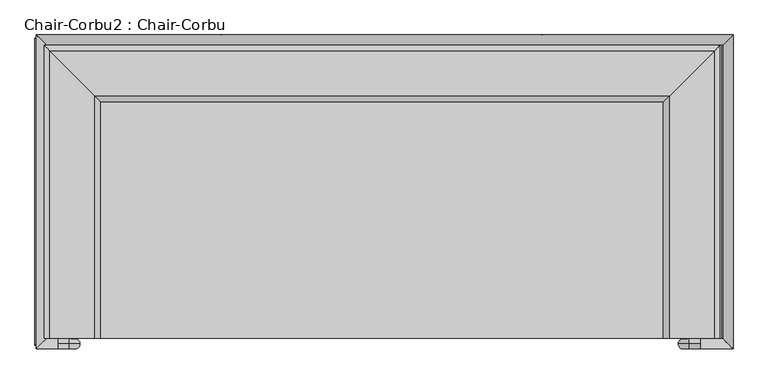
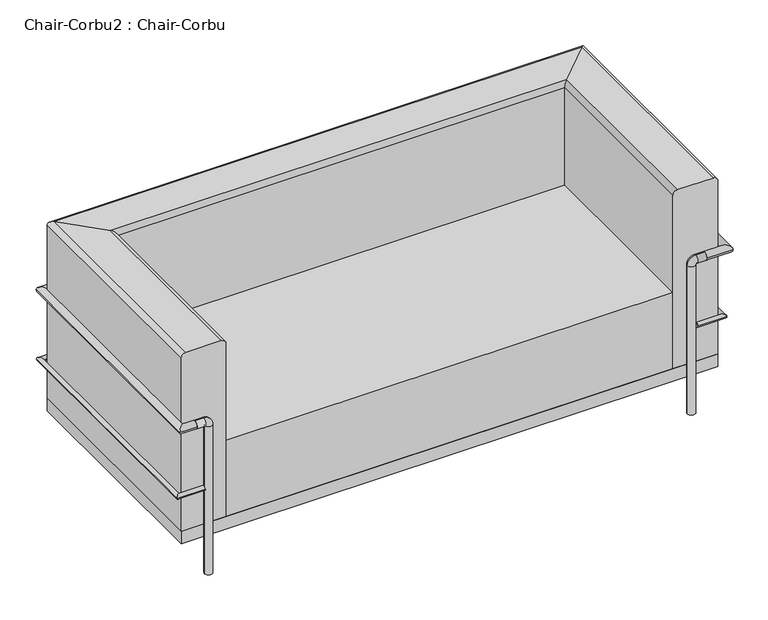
"""IFC4 building model written with IfcOpenShell, lengths in millimetres: furniture geometry, Chair-Corbu2 : Chair-Corbu."""

from ifc_helpers import new_model, si_unit, point, frame, frame_2d, origin, origin_with_axes, place, context, project, spatial, polyline, circle_curve, ellipse_curve, trimmed, segment, composite_curve, outline, extrude, source, transform, mapped, element, save
from ifc_brep_helpers import plane_surface, cylinder_surface, revolved_surface, advanced_brep


def chair_corbu2_chair_corbu_dae4c868(model_context):
    return source(origin(), model_context, "Body", "SolidModel", [
        advanced_brep(
        [(-188.6262295, 136.5770492, 139.7), (-61.6262295, 136.5770492, 139.7), (-61.6262295, 136.5770492, 660.4), (-74.3262295, 136.5770492, 673.1), (-175.9262295, 136.5770492, 673.1), (-188.6262295, 136.5770492, 660.4), (-188.6262295, 796.9770492, 139.7), (-61.6262295, 669.9770492, 139.7), (-61.6262295, 669.9770492, 660.4), (-74.3262295, 682.6770492, 673.1), (-175.9262295, 784.2770492, 673.1), (-188.6262295, 796.9770492, 660.4), (1335.3737705, 796.9770492, 139.7), (1208.3737705, 669.9770492, 139.7), (1208.3737705, 669.9770492, 660.4), (1221.0737705, 682.6770492, 673.1), (1322.6737705, 784.2770492, 673.1), (1335.3737705, 796.9770492, 660.4), (1335.3737705, 136.5770492, 139.7), (1335.3737705, 136.5770492, 660.4), (1322.6737705, 136.5770492, 673.1), (1221.0737705, 136.5770492, 673.1), (1208.3737705, 136.5770492, 660.4), (1208.3737705, 136.5770492, 139.7)],
        [
            (0, 1),
            (1, 2),
            (2, 3, circle_curve(frame((-74.3262295, 136.5770492, 660.4), z_axis=(0.0, -1.0, 0.0), x_axis=(-1.0, 0.0, 0.0)), 12.7)),
            (3, 4),
            (4, 5, circle_curve(frame((-175.9262295, 136.5770492, 660.4), z_axis=(0.0, -1.0, 0.0), x_axis=(-1.0, 0.0, 0.0)), 12.7)),
            (5, 0),
            (0, 6),
            (6, 7),
            (7, 1),
            (7, 8),
            (8, 2),
            (8, 9, ellipse_curve(frame((-74.3262295, 682.6770492, 660.4), z_axis=(-0.7071067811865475, -0.7071067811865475, 0.0), x_axis=(0.7071067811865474, -0.7071067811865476, 0.0)), 17.9605122, 12.7)),
            (9, 3),
            (9, 10),
            (10, 4),
            (10, 11, ellipse_curve(frame((-175.9262295, 784.2770492, 660.4), z_axis=(-0.7071067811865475, -0.7071067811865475, 0.0), x_axis=(0.7071067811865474, -0.7071067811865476, 0.0)), 17.9605122, 12.7)),
            (11, 5),
            (11, 6),
            (6, 12),
            (12, 13),
            (13, 7),
            (13, 14),
            (14, 8),
            (14, 15, ellipse_curve(frame((1221.0737705, 682.6770492, 660.4), z_axis=(-0.7071067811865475, 0.7071067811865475, 0.0), x_axis=(-0.7071067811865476, -0.7071067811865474, 0.0)), 17.9605122, 12.7)),
            (15, 9),
            (15, 16),
            (16, 10),
            (16, 17, ellipse_curve(frame((1322.6737705, 784.2770492, 660.4), z_axis=(-0.7071067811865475, 0.7071067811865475, 0.0), x_axis=(-0.7071067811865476, -0.7071067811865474, 0.0)), 17.9605122, 12.7)),
            (17, 11),
            (17, 12),
            (18, 19),
            (19, 20, circle_curve(frame((1322.6737705, 136.5770492, 660.4), z_axis=(0.0, -1.0, 0.0), x_axis=(1.0, 0.0, 0.0)), 12.7)),
            (20, 21),
            (21, 22, circle_curve(frame((1221.0737705, 136.5770492, 660.4), z_axis=(0.0, -1.0, 0.0), x_axis=(1.0, 0.0, 0.0)), 12.7)),
            (22, 23),
            (23, 18),
            (12, 18),
            (23, 13),
            (22, 14),
            (21, 15),
            (20, 16),
            (19, 17),
        ],
        [
            plane_surface(frame((-871.3619763, 136.5770492, 0.0), z_axis=(0.0, -1.0, 0.0), x_axis=(0.0, 0.0, 1.0))),
            plane_surface(frame((-188.6262295, 136.5770492, 139.7), z_axis=(0.0, 0.0, -1.0), x_axis=(0.0, 1.0, 0.0))),
            plane_surface(frame((-61.6262295, 136.5770492, 139.7), z_axis=(1.0, 0.0, 0.0), x_axis=(0.0, 1.0, 0.0))),
            cylinder_surface(frame((-74.3262295, 136.5770492, 660.4), z_axis=(0.0, -1.0, 0.0), x_axis=(-1.0, 0.0, 0.0)), 12.7),
            plane_surface(frame((-74.3262295, 136.5770492, 673.1), z_axis=(0.0, 0.0, 1.0), x_axis=(0.0, 1.0, 0.0))),
            cylinder_surface(frame((-175.9262295, 136.5770492, 660.4), z_axis=(0.0, -1.0, 0.0), x_axis=(-1.0, 0.0, 0.0)), 12.7),
            plane_surface(frame((-188.6262295, 136.5770492, 660.4), z_axis=(-1.0, 0.0, 0.0), x_axis=(0.0, 1.0, 0.0))),
            plane_surface(frame((-188.6262295, 796.9770492, 139.7), z_axis=(0.0, 0.0, -1.0), x_axis=(1.0, 0.0, 0.0))),
            plane_surface(frame((-61.6262295, 669.9770492, 139.7), z_axis=(0.0, -1.0, 0.0), x_axis=(1.0, 0.0, 0.0))),
            cylinder_surface(frame((-188.6262295, 682.6770492, 660.4), z_axis=(-1.0, 0.0, 0.0), x_axis=(0.0, 1.0, 0.0)), 12.7),
            plane_surface(frame((-74.3262295, 682.6770492, 673.1), z_axis=(0.0, 0.0, 1.0), x_axis=(1.0, 0.0, 0.0))),
            cylinder_surface(frame((-188.6262295, 784.2770492, 660.4), z_axis=(-1.0, 0.0, 0.0), x_axis=(0.0, 1.0, 0.0)), 12.7),
            plane_surface(frame((-188.6262295, 796.9770492, 660.4), z_axis=(0.0, 1.0, 0.0), x_axis=(1.0, 0.0, 0.0))),
            plane_surface(frame((652.6380237, 136.5770492, 0.0), z_axis=(0.0, -1.0, 0.0), x_axis=(0.0, 0.0, -1.0))),
            plane_surface(frame((1335.3737705, 796.9770492, 139.7), z_axis=(0.0, 0.0, -1.0), x_axis=(0.0, -1.0, 0.0))),
            plane_surface(frame((1208.3737705, 669.9770492, 139.7), z_axis=(-1.0, 0.0, 0.0), x_axis=(0.0, -1.0, 0.0))),
            cylinder_surface(frame((1221.0737705, 796.9770492, 660.4), z_axis=(0.0, 1.0, 0.0), x_axis=(1.0, 0.0, 0.0)), 12.7),
            plane_surface(frame((1221.0737705, 682.6770492, 673.1), z_axis=(0.0, 0.0, 1.0), x_axis=(0.0, -1.0, 0.0))),
            cylinder_surface(frame((1322.6737705, 796.9770492, 660.4), z_axis=(0.0, 1.0, 0.0), x_axis=(1.0, 0.0, 0.0)), 12.7),
            plane_surface(frame((1335.3737705, 796.9770492, 660.4), z_axis=(1.0, 0.0, 0.0), x_axis=(0.0, -1.0, 0.0))),
        ],
        [
            (0, [[1, 2, 3, 4, 5, 6]]),
            (1, [[-1, 7, 8, 9]]),
            (2, [[-2, -9, 10, 11]]),
            (3, [[-3, -11, 12, 13]]),
            (4, [[-4, -13, 14, 15]]),
            (5, [[-5, -15, 16, 17]]),
            (6, [[-6, -17, 18, -7]]),
            (7, [[-8, 19, 20, 21]]),
            (8, [[-10, -21, 22, 23]]),
            (9, [[-12, -23, 24, 25]]),
            (10, [[-14, -25, 26, 27]]),
            (11, [[-16, -27, 28, 29]]),
            (12, [[-18, -29, 30, -19]]),
            (13, [[31, 32, 33, 34, 35, 36]]),
            (14, [[-20, 37, -36, 38]]),
            (15, [[-22, -38, -35, 39]]),
            (16, [[-24, -39, -34, 40]]),
            (17, [[-26, -40, -33, 41]]),
            (18, [[-28, -41, -32, 42]]),
            (19, [[-30, -42, -31, -37]]),
        ],
    ),
        advanced_brep(
        [(1263.9362705, 123.8770492, 0.0), (1241.7112705, 123.8770492, 0.0), (1263.9362705, 123.8770492, 444.496873), (1241.7112705, 123.8770492, 444.496873), (1265.5237705, 123.8770492, 468.309373), (1265.5237705, 123.8770492, 446.084373), (1290.9237705, 123.8770492, 446.084373), (1290.9237705, 123.8770492, 468.309373)],
        [
            (0, 1, circle_curve(frame((1252.8237705, 123.8770492, 0.0), z_axis=(0.0, 0.0, -1.0), x_axis=(-1.0, 0.0, 0.0)), 11.1125)),
            (1, 0, circle_curve(frame((1252.8237705, 123.8770492, 0.0), z_axis=(0.0, 0.0, -1.0), x_axis=(-1.0, 0.0, 0.0)), 11.1125)),
            (0, 2),
            (2, 3, circle_curve(frame((1252.8237705, 123.8770492, 444.496873), z_axis=(0.0, 0.0, -1.0), x_axis=(-1.0, 0.0, 0.0)), 11.1125)),
            (3, 1),
            (3, 2, circle_curve(frame((1252.8237705, 123.8770492, 444.496873), z_axis=(0.0, 0.0, -1.0), x_axis=(-1.0, 0.0, 0.0)), 11.1125)),
            (4, 3, circle_curve(frame((1265.5237705, 123.8770492, 444.496873), z_axis=(0.0, -1.0, 0.0), x_axis=(-1.0, 0.0, 0.0)), 23.8125)),
            (2, 5, circle_curve(frame((1265.5237705, 123.8770492, 444.496873), z_axis=(0.0, 1.0, 0.0), x_axis=(-1.0, 0.0, 0.0)), 1.5875)),
            (5, 4, circle_curve(frame((1265.5237705, 123.8770492, 457.196873), z_axis=(-1.0, 0.0, 0.0), x_axis=(0.0, 0.0, 1.0)), 11.1125)),
            (4, 5, circle_curve(frame((1265.5237705, 123.8770492, 457.196873), z_axis=(-1.0, 0.0, 0.0), x_axis=(0.0, 0.0, 1.0)), 11.1125)),
            (6, 7, circle_curve(frame((1290.9237705, 123.8770492, 457.196873), z_axis=(1.0, 0.0, 0.0), x_axis=(0.0, 0.0, 1.0)), 11.1125)),
            (7, 6, circle_curve(frame((1290.9237705, 123.8770492, 457.196873), z_axis=(1.0, 0.0, 0.0), x_axis=(0.0, 0.0, 1.0)), 11.1125)),
            (5, 6),
            (7, 4),
        ],
        [
            plane_surface(frame((1252.8237705, 112.7645492, 0.0), z_axis=(0.0, 0.0, -1.0), x_axis=(1.0, 0.0, 0.0))),
            cylinder_surface(frame((1252.8237705, 123.8770492, 0.0), z_axis=(0.0, 0.0, -1.0), x_axis=(-1.0, 0.0, 0.0)), 11.1125),
            revolved_surface(trimmed(ellipse_curve(frame((1252.8237705, 123.8770492, 444.496873), z_axis=(0.0, 0.0, -1.0), x_axis=(-1.0, 0.0, 0.0)), 11.1125, 11.1125), [point((1263.9362705, 123.8770492, 444.496873))], [point((1241.7112705, 123.8770492, 444.496873))], True, "CARTESIAN"), (1265.5237705, 123.8770492, 444.496873), (0.0, 1.0, 0.0)),
            revolved_surface(trimmed(ellipse_curve(frame((1252.8237705, 123.8770492, 444.496873), z_axis=(0.0, 0.0, -1.0), x_axis=(-1.0, 0.0, 0.0)), 11.1125, 11.1125), [point((1241.7112705, 123.8770492, 444.496873))], [point((1263.9362705, 123.8770492, 444.496873))], True, "CARTESIAN"), (1265.5237705, 123.8770492, 444.496873), (0.0, 1.0, 0.0)),
            plane_surface(frame((1290.9237705, 123.8770492, 446.084373), z_axis=(1.0, 0.0, 0.0), x_axis=(0.0, 1.0, 0.0))),
            cylinder_surface(frame((1265.5237705, 123.8770492, 457.196873), z_axis=(-1.0, 0.0, 0.0), x_axis=(0.0, 0.0, 1.0)), 11.1125),
        ],
        [
            (0, [[1, 2]]),
            (1, [[-1, 3, 4, 5]]),
            (1, [[-2, -5, 6, -3]]),
            (2, [[7, -4, 8, 9]]),
            (3, [[-8, -6, -7, 10]]),
            (4, [[11, 12]]),
            (5, [[-9, 13, -12, 14]]),
            (5, [[-10, -14, -11, -13]]),
        ],
    ),
        advanced_brep(
        [(-107.6637109, 123.8770492, 0.0), (-129.8887109, 123.8770492, 0.0), (-107.6637109, 123.8770492, 444.496873), (-129.8887109, 123.8770492, 444.496873), (-131.4762109, 123.8770492, 446.084373), (-131.4762109, 123.8770492, 468.309373), (-156.8762109, 123.8770492, 468.309373), (-156.8762109, 123.8770492, 446.084373)],
        [
            (0, 1, circle_curve(frame((-118.7762109, 123.8770492, 0.0), z_axis=(0.0, 0.0, -1.0), x_axis=(-1.0, 0.0, 0.0)), 11.1125)),
            (1, 0, circle_curve(frame((-118.7762109, 123.8770492, 0.0), z_axis=(0.0, 0.0, -1.0), x_axis=(-1.0, 0.0, 0.0)), 11.1125)),
            (0, 2),
            (2, 3, circle_curve(frame((-118.7762109, 123.8770492, 444.496873), z_axis=(0.0, 0.0, -1.0), x_axis=(-1.0, 0.0, 0.0)), 11.1125)),
            (3, 1),
            (3, 2, circle_curve(frame((-118.7762109, 123.8770492, 444.496873), z_axis=(0.0, 0.0, -1.0), x_axis=(-1.0, 0.0, 0.0)), 11.1125)),
            (4, 3, circle_curve(frame((-131.4762109, 123.8770492, 444.496873), z_axis=(0.0, 1.0, 0.0), x_axis=(1.0, 0.0, 0.0)), 1.5875)),
            (2, 5, circle_curve(frame((-131.4762109, 123.8770492, 444.496873), z_axis=(0.0, -1.0, 0.0), x_axis=(1.0, 0.0, 0.0)), 23.8125)),
            (5, 4, circle_curve(frame((-131.4762109, 123.8770492, 457.196873), z_axis=(1.0, 0.0, 0.0), x_axis=(0.0, 0.0, -1.0)), 11.1125)),
            (4, 5, circle_curve(frame((-131.4762109, 123.8770492, 457.196873), z_axis=(1.0, 0.0, 0.0), x_axis=(0.0, 0.0, -1.0)), 11.1125)),
            (6, 7, circle_curve(frame((-156.8762109, 123.8770492, 457.196873), z_axis=(-1.0, 0.0, 0.0), x_axis=(0.0, 0.0, -1.0)), 11.1125)),
            (7, 6, circle_curve(frame((-156.8762109, 123.8770492, 457.196873), z_axis=(-1.0, 0.0, 0.0), x_axis=(0.0, 0.0, -1.0)), 11.1125)),
            (5, 6),
            (7, 4),
        ],
        [
            plane_surface(frame((-118.7762109, 112.7645492, 0.0), z_axis=(0.0, 0.0, -1.0), x_axis=(1.0, 0.0, 0.0))),
            cylinder_surface(frame((-118.7762109, 123.8770492, 0.0), z_axis=(0.0, 0.0, -1.0), x_axis=(-1.0, 0.0, 0.0)), 11.1125),
            revolved_surface(trimmed(ellipse_curve(frame((-118.7762109, 123.8770492, 444.496873), z_axis=(0.0, 0.0, -1.0), x_axis=(-1.0, 0.0, 0.0)), 11.1125, 11.1125), [point((-107.6637109, 123.8770492, 444.496873))], [point((-129.8887109, 123.8770492, 444.496873))], True, "CARTESIAN"), (-131.4762109, 123.8770492, 444.496873), (0.0, -1.0, 0.0)),
            revolved_surface(trimmed(ellipse_curve(frame((-118.7762109, 123.8770492, 444.496873), z_axis=(0.0, 0.0, -1.0), x_axis=(-1.0, 0.0, 0.0)), 11.1125, 11.1125), [point((-129.8887109, 123.8770492, 444.496873))], [point((-107.6637109, 123.8770492, 444.496873))], True, "CARTESIAN"), (-131.4762109, 123.8770492, 444.496873), (0.0, -1.0, 0.0)),
            plane_surface(frame((-156.8762109, 123.8770492, 446.084373), z_axis=(-1.0, 0.0, 0.0), x_axis=(0.0, -1.0, 0.0))),
            cylinder_surface(frame((-131.4762109, 123.8770492, 457.196873), z_axis=(1.0, 0.0, 0.0), x_axis=(0.0, 0.0, -1.0)), 11.1125),
        ],
        [
            (0, [[1, 2]]),
            (1, [[-1, 3, 4, 5]]),
            (1, [[-2, -5, 6, -3]]),
            (2, [[7, -4, 8, 9]]),
            (3, [[-8, -6, -7, 10]]),
            (4, [[11, 12]]),
            (5, [[-9, 13, -12, 14]]),
            (5, [[-10, -14, -11, -13]]),
        ],
    ),
        advanced_brep(
        [(-126.746678, 133.8111098, 255.1432273), (-126.746678, 121.1111098, 255.1432273), (-196.596678, 133.8111098, 255.1432273), (-209.296678, 121.1111098, 255.1432273), (-196.596678, 800.5611098, 255.1432273), (-209.296678, 813.2611098, 255.1432273), (1340.103322, 800.5611098, 255.1432273), (1352.803322, 813.2611098, 255.1432273), (1340.103322, 133.8111098, 255.1432273), (1352.803322, 121.1111098, 255.1432273), (1270.253322, 133.8111098, 255.1432273), (1270.253322, 121.1111098, 255.1432273)],
        [
            (0, 1, circle_curve(frame((-126.746678, 127.4611098, 255.1432273), z_axis=(1.0, 0.0, 0.0), x_axis=(0.0, -1.0, 0.0)), 6.35)),
            (1, 0, circle_curve(frame((-126.746678, 127.4611098, 255.1432273), z_axis=(1.0, 0.0, 0.0), x_axis=(0.0, -1.0, 0.0)), 6.35)),
            (0, 2),
            (2, 3, ellipse_curve(frame((-202.946678, 127.4611098, 255.1432273), z_axis=(0.7071067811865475, -0.7071067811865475, 0.0), x_axis=(0.7071067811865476, 0.7071067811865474, 0.0)), 8.9802561, 6.35)),
            (3, 1),
            (3, 2, ellipse_curve(frame((-202.946678, 127.4611098, 255.1432273), z_axis=(0.7071067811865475, -0.7071067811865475, 0.0), x_axis=(0.7071067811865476, 0.7071067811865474, 0.0)), 8.9802561, 6.35)),
            (2, 4),
            (4, 5, ellipse_curve(frame((-202.946678, 806.9111098, 255.1432273), z_axis=(-0.7071067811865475, -0.7071067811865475, 0.0), x_axis=(0.7071067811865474, -0.7071067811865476, 0.0)), 8.9802561, 6.35)),
            (5, 3),
            (5, 4, ellipse_curve(frame((-202.946678, 806.9111098, 255.1432273), z_axis=(-0.7071067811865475, -0.7071067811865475, 0.0), x_axis=(0.7071067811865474, -0.7071067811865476, 0.0)), 8.9802561, 6.35)),
            (4, 6),
            (6, 7, ellipse_curve(frame((1346.453322, 806.9111098, 255.1432273), z_axis=(-0.7071067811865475, 0.7071067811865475, 0.0), x_axis=(-0.7071067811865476, -0.7071067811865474, 0.0)), 8.9802561, 6.35)),
            (7, 5),
            (7, 6, ellipse_curve(frame((1346.453322, 806.9111098, 255.1432273), z_axis=(-0.7071067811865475, 0.7071067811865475, 0.0), x_axis=(-0.7071067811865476, -0.7071067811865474, 0.0)), 8.9802561, 6.35)),
            (6, 8),
            (8, 9, ellipse_curve(frame((1346.453322, 127.4611098, 255.1432273), z_axis=(0.7071067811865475, 0.7071067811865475, 0.0), x_axis=(-0.7071067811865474, 0.7071067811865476, 0.0)), 8.9802561, 6.35)),
            (9, 7),
            (9, 8, ellipse_curve(frame((1346.453322, 127.4611098, 255.1432273), z_axis=(0.7071067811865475, 0.7071067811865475, 0.0), x_axis=(-0.7071067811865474, 0.7071067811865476, 0.0)), 8.9802561, 6.35)),
            (10, 11, circle_curve(frame((1270.253322, 127.4611098, 255.1432273), z_axis=(-1.0, 0.0, 0.0), x_axis=(0.0, -1.0, 0.0)), 6.35)),
            (11, 10, circle_curve(frame((1270.253322, 127.4611098, 255.1432273), z_axis=(-1.0, 0.0, 0.0), x_axis=(0.0, -1.0, 0.0)), 6.35)),
            (8, 10),
            (11, 9),
        ],
        [
            plane_surface(frame((-126.746678, 127.4611098, -260.661826), z_axis=(1.0, 0.0, 0.0), x_axis=(0.0, -1.0, 0.0))),
            cylinder_surface(frame((-126.746678, 127.4611098, 255.1432273), z_axis=(1.0, 0.0, 0.0), x_axis=(0.0, -1.0, 0.0)), 6.35),
            cylinder_surface(frame((-202.946678, 127.4611098, 255.1432273), z_axis=(0.0, -1.0, 0.0), x_axis=(-1.0, 0.0, 0.0)), 6.35),
            cylinder_surface(frame((-202.946678, 806.9111098, 255.1432273), z_axis=(-1.0, 0.0, 0.0), x_axis=(0.0, 1.0, 0.0)), 6.35),
            cylinder_surface(frame((1346.453322, 806.9111098, 255.1432273), z_axis=(0.0, 1.0, 0.0), x_axis=(1.0, 0.0, 0.0)), 6.35),
            plane_surface(frame((1270.253322, 127.4611098, -260.661826), z_axis=(-1.0, 0.0, 0.0), x_axis=(0.0, -1.0, 0.0))),
            cylinder_surface(frame((1346.453322, 127.4611098, 255.1432273), z_axis=(1.0, 0.0, 0.0), x_axis=(0.0, -1.0, 0.0)), 6.35),
        ],
        [
            (0, [[1, 2]]),
            (1, [[-1, 3, 4, 5]]),
            (1, [[-2, -5, 6, -3]]),
            (2, [[-4, 7, 8, 9]]),
            (2, [[-6, -9, 10, -7]]),
            (3, [[-8, 11, 12, 13]]),
            (3, [[-10, -13, 14, -11]]),
            (4, [[-12, 15, 16, 17]]),
            (4, [[-14, -17, 18, -15]]),
            (5, [[19, 20]]),
            (6, [[-16, 21, -20, 22]]),
            (6, [[-18, -22, -19, -21]]),
        ],
    ),
        advanced_brep(
        [(-156.8762109, 135.0045992, 457.196873), (-156.8762109, 112.7795992, 457.196873), (-183.8637109, 135.0045992, 457.196873), (-206.0887109, 112.7795992, 457.196873), (-183.8637109, 798.5795992, 457.196873), (-206.0887109, 820.8045992, 457.196873), (1343.3112891, 798.5795992, 457.196873), (1365.5362891, 820.8045992, 457.196873), (1343.3112891, 135.0045992, 457.196873), (1365.5362891, 112.7795992, 457.196873), (1290.9237891, 135.0045992, 457.196873), (1290.9237891, 112.7795992, 457.196873)],
        [
            (0, 1, circle_curve(frame((-156.8762109, 123.8920992, 457.196873), z_axis=(1.0, 0.0, 0.0), x_axis=(0.0, -1.0, 0.0)), 11.1125)),
            (1, 0, circle_curve(frame((-156.8762109, 123.8920992, 457.196873), z_axis=(1.0, 0.0, 0.0), x_axis=(0.0, -1.0, 0.0)), 11.1125)),
            (0, 2),
            (2, 3, ellipse_curve(frame((-194.9762109, 123.8920992, 457.196873), z_axis=(0.7071067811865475, -0.7071067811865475, 0.0), x_axis=(0.7071067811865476, 0.7071067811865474, 0.0)), 15.7154482, 11.1125)),
            (3, 1),
            (3, 2, ellipse_curve(frame((-194.9762109, 123.8920992, 457.196873), z_axis=(0.7071067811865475, -0.7071067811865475, 0.0), x_axis=(0.7071067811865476, 0.7071067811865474, 0.0)), 15.7154482, 11.1125)),
            (2, 4),
            (4, 5, ellipse_curve(frame((-194.9762109, 809.6920992, 457.196873), z_axis=(-0.7071067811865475, -0.7071067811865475, 0.0), x_axis=(0.7071067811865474, -0.7071067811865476, 0.0)), 15.7154482, 11.1125)),
            (5, 3),
            (5, 4, ellipse_curve(frame((-194.9762109, 809.6920992, 457.196873), z_axis=(-0.7071067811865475, -0.7071067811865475, 0.0), x_axis=(0.7071067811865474, -0.7071067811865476, 0.0)), 15.7154482, 11.1125)),
            (4, 6),
            (6, 7, ellipse_curve(frame((1354.4237891, 809.6920992, 457.196873), z_axis=(-0.7071067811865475, 0.7071067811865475, 0.0), x_axis=(-0.7071067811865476, -0.7071067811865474, 0.0)), 15.7154482, 11.1125)),
            (7, 5),
            (7, 6, ellipse_curve(frame((1354.4237891, 809.6920992, 457.196873), z_axis=(-0.7071067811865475, 0.7071067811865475, 0.0), x_axis=(-0.7071067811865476, -0.7071067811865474, 0.0)), 15.7154482, 11.1125)),
            (6, 8),
            (8, 9, ellipse_curve(frame((1354.4237891, 123.8920992, 457.196873), z_axis=(0.7071067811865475, 0.7071067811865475, 0.0), x_axis=(-0.7071067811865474, 0.7071067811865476, 0.0)), 15.7154482, 11.1125)),
            (9, 7),
            (9, 8, ellipse_curve(frame((1354.4237891, 123.8920992, 457.196873), z_axis=(0.7071067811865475, 0.7071067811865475, 0.0), x_axis=(-0.7071067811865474, 0.7071067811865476, 0.0)), 15.7154482, 11.1125)),
            (10, 11, circle_curve(frame((1290.9237891, 123.8920992, 457.196873), z_axis=(-1.0, 0.0, 0.0), x_axis=(0.0, -1.0, 0.0)), 11.1125)),
            (11, 10, circle_curve(frame((1290.9237891, 123.8920992, 457.196873), z_axis=(-1.0, 0.0, 0.0), x_axis=(0.0, -1.0, 0.0)), 11.1125)),
            (8, 10),
            (11, 9),
        ],
        [
            plane_surface(frame((-156.8762109, 123.8920992, -466.8536452), z_axis=(1.0, 0.0, 0.0), x_axis=(0.0, -1.0, 0.0))),
            cylinder_surface(frame((-156.8762109, 123.8920992, 457.196873), z_axis=(1.0, 0.0, 0.0), x_axis=(0.0, -1.0, 0.0)), 11.1125),
            cylinder_surface(frame((-194.9762109, 123.8920992, 457.196873), z_axis=(0.0, -1.0, 0.0), x_axis=(-1.0, 0.0, 0.0)), 11.1125),
            cylinder_surface(frame((-194.9762109, 809.6920992, 457.196873), z_axis=(-1.0, 0.0, 0.0), x_axis=(0.0, 1.0, 0.0)), 11.1125),
            cylinder_surface(frame((1354.4237891, 809.6920992, 457.196873), z_axis=(0.0, 1.0, 0.0), x_axis=(1.0, 0.0, 0.0)), 11.1125),
            plane_surface(frame((1290.9237891, 123.8920992, -466.8536452), z_axis=(-1.0, 0.0, 0.0), x_axis=(0.0, -1.0, 0.0))),
            cylinder_surface(frame((1354.4237891, 123.8920992, 457.196873), z_axis=(1.0, 0.0, 0.0), x_axis=(0.0, -1.0, 0.0)), 11.1125),
        ],
        [
            (0, [[1, 2]]),
            (1, [[-1, 3, 4, 5]]),
            (1, [[-2, -5, 6, -3]]),
            (2, [[-4, 7, 8, 9]]),
            (2, [[-6, -9, 10, -7]]),
            (3, [[-8, 11, 12, 13]]),
            (3, [[-10, -13, 14, -11]]),
            (4, [[-12, 15, 16, 17]]),
            (4, [[-14, -17, 18, -15]]),
            (5, [[19, 20]]),
            (6, [[-16, 21, -20, 22]]),
            (6, [[-18, -22, -19, -21]]),
        ],
    ),
        extrude(outline(polyline([(1208.3737705, 669.9770492), (1208.3737705, 136.5770492), (-61.6262295, 136.5770492), (-61.6262295, 669.9770492), (1208.3737705, 669.9770492)])), frame((0.0, 0.0, 139.7), z_axis=(0.0, 0.0, 1.0), x_axis=(1.0, 0.0, 0.0)), (0.0, 0.0, 1.0), 228.6),
        extrude(outline(polyline([(1335.3737705, 796.9770492), (1335.3737705, 136.5770492), (-188.6262295, 136.5770492), (-188.6262295, 796.9770492), (1335.3737705, 796.9770492)])), frame((0.0, 0.0, 101.6), z_axis=(0.0, 0.0, 1.0), x_axis=(1.0, 0.0, 0.0)), (0.0, 0.0, 1.0), 38.1),
        extrude(outline(composite_curve([segment(trimmed(circle_curve(frame_2d((211.4237705, 809.6770492)), 11.1125), [point((200.3112705, 809.6770492))], [point((222.5362705, 809.6770492))], False, "CARTESIAN"), True, "CONTINUOUS"), segment(trimmed(circle_curve(frame_2d((211.4237705, 809.6770492)), 11.1125), [point((222.5362705, 809.6770492))], [point((200.3112705, 809.6770492))], False, "CARTESIAN"), True, "CONTINUOUS")], self_intersect=False)), origin_with_axes(), (0.0, 0.0, 1.0), 457.2),
        extrude(outline(composite_curve([segment(trimmed(circle_curve(frame_2d((935.3237705, 809.6770492)), 11.1125), [point((946.4362705, 809.6770492))], [point((924.2112705, 809.6770492))], False, "CARTESIAN"), True, "CONTINUOUS"), segment(trimmed(circle_curve(frame_2d((935.3237705, 809.6770492)), 11.1125), [point((924.2112705, 809.6770492))], [point((946.4362705, 809.6770492))], False, "CARTESIAN"), True, "CONTINUOUS")], self_intersect=False)), origin_with_axes(), (0.0, 0.0, 1.0), 457.2),
    ])


if __name__ == "__main__":
    model = new_model("IFC4")
    model_context = context("Model", 3, world=origin())
    ifc_project = project(units=[si_unit("LENGTHUNIT", "METRE", prefix="MILLI")], contexts=[model_context])
    site = spatial("IfcSite", under=ifc_project)
    building = spatial("IfcBuilding", under=site)
    placement = place(None, origin())
    chair_corbu2_chair_corbu_shape = chair_corbu2_chair_corbu_dae4c868(model_context)
    element("IfcFurniture", 1, ObjectType="Chair-Corbu2 : Chair-Corbu", at=placement, inside=building, context=model_context, shape_type="MappedRepresentation", body=[
        mapped(chair_corbu2_chair_corbu_shape, transform((0.0, 0.0, 0.0), x_axis=(1.0, 0.0, 0.0), y_axis=(0.0, 1.0, 0.0), z_axis=(0.0, 0.0, 1.0))),
    ])
    save(model, "model.ifc")
